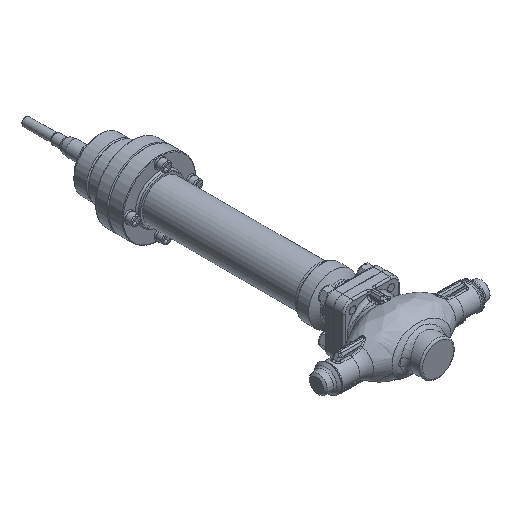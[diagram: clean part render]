
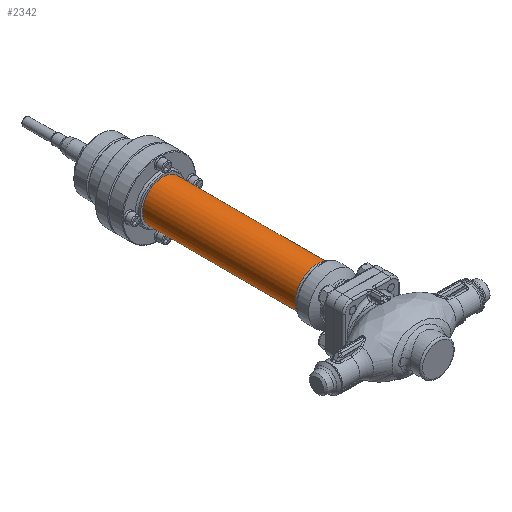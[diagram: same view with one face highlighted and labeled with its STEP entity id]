
A CAD part, isometric view. The second image highlights one B-rep face of the part: STEP entity #2342.
In plain terms, the highlighted cylindrical face has radius 25 mm (diameter 50 mm), a full revolution.
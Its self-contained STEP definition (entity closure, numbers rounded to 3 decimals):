
#1371=CYLINDRICAL_SURFACE('',#9580,25.);
#1692=FACE_BOUND('',#3654,.T.);
#1693=FACE_BOUND('',#3655,.T.);
#2342=ADVANCED_FACE('',(#1692,#1693),#1371,.T.);
#3654=EDGE_LOOP('',(#5881));
#3655=EDGE_LOOP('',(#5882));
#5881=ORIENTED_EDGE('',*,*,#8025,.F.);
#5882=ORIENTED_EDGE('',*,*,#8026,.T.);
#6874=VERTEX_POINT('',#17993);
#6875=VERTEX_POINT('',#17995);
#8025=EDGE_CURVE('',#6874,#6874,#8611,.T.);
#8026=EDGE_CURVE('',#6875,#6875,#8612,.T.);
#8611=CIRCLE('',#9578,25.);
#8612=CIRCLE('',#9579,25.);
#9578=AXIS2_PLACEMENT_3D('',#17992,#11812,#11813);
#9579=AXIS2_PLACEMENT_3D('',#17994,#11814,#11815);
#9580=AXIS2_PLACEMENT_3D('',#17996,#11816,#11817);
#11812=DIRECTION('',(0.,-1.,0.));
#11813=DIRECTION('',(1.,0.,0.));
#11814=DIRECTION('',(0.,-1.,0.));
#11815=DIRECTION('',(1.,0.,0.));
#11816=DIRECTION('',(0.,1.,0.));
#11817=DIRECTION('',(1.,0.,0.));
#17992=CARTESIAN_POINT('',(0.,96.,0.));
#17993=CARTESIAN_POINT('',(25.,96.,0.));
#17994=CARTESIAN_POINT('',(0.,294.,0.));
#17995=CARTESIAN_POINT('',(25.,294.,0.));
#17996=CARTESIAN_POINT('',(0.,88.,0.));
